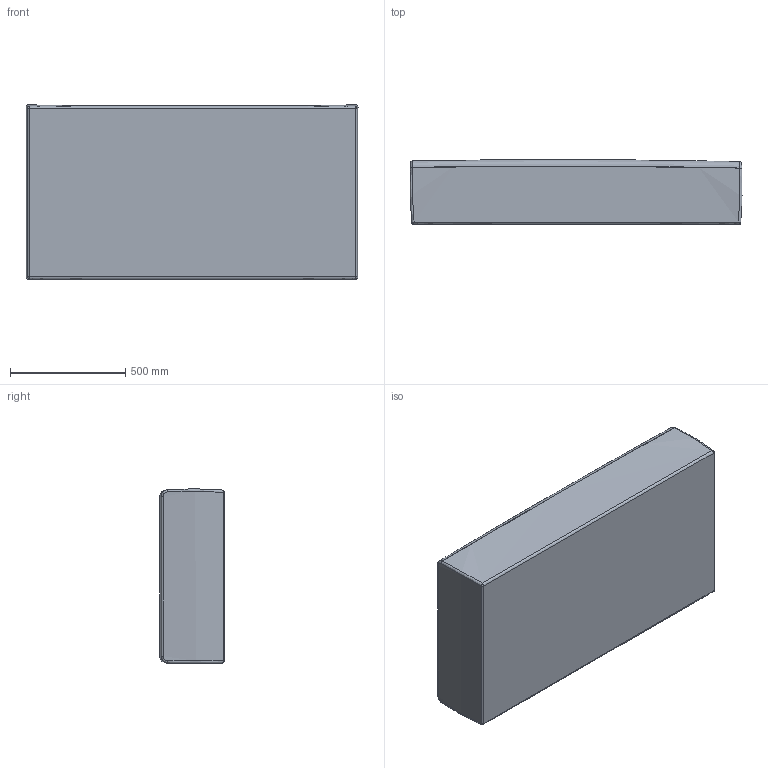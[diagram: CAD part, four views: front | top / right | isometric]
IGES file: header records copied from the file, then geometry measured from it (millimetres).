
Start section: SolidWorks IGES file using NURBS representation for surfaces
Global section: file name: D:\VICCARBE\PRODUCTOS\19-MASS\04-MODELADOS (PLANOS)\SOLIDWORKS\PIEZAS\Seats\01-IGES\VICCARBE_Mass_seat_144.IGS; native system: SolidWorks 2009; preprocessor: SolidWorks 2009; author: RUBEN; date: 110908.162643; units: millimetre
Bounding box: 1439.43 x 280 x 755.95 mm (x, y, z)
Surface area: 3295552.3 mm2 (no closed solid volume)
Topology: 0 solids, 0 shells, 28 faces, 317 edges, 313 vertices
Faces by surface type: bspline 28
